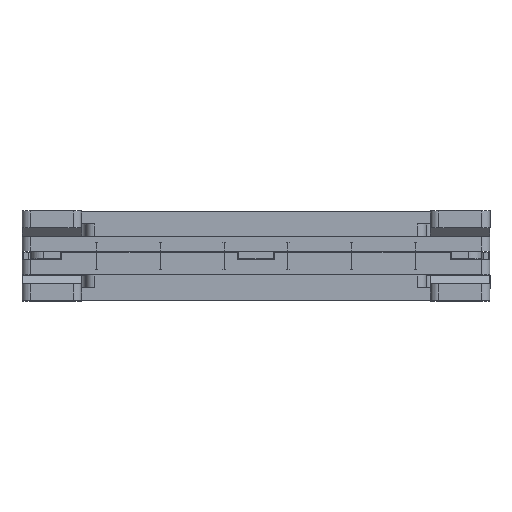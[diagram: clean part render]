
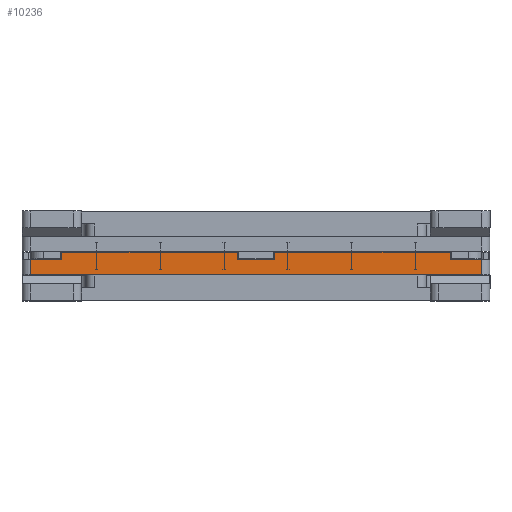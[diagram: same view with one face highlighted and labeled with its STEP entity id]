
A CAD part, top view. The second image highlights one B-rep face of the part: STEP entity #10236.
In plain terms, the highlighted planar face has unit normal (0, 0, 1).
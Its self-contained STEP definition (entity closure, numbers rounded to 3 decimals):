
#212 = ORIENTED_EDGE ( 'NONE', *, *, #36337, .T. ) ;
#353 = ORIENTED_EDGE ( 'NONE', *, *, #36332, .F. ) ;
#692 = VECTOR ( 'NONE', #52304, 1000. ) ;
#1336 = LINE ( 'NONE', #22605, #17972 ) ;
#1466 = CARTESIAN_POINT ( 'NONE',  ( 22., 18., 112.5 ) ) ;
#2512 = AXIS2_PLACEMENT_3D ( 'NONE', #39170, #46843, #16219 ) ;
#2733 = LINE ( 'NONE', #23982, #35339 ) ;
#2742 = CARTESIAN_POINT ( 'NONE',  ( -22., 18., 112.5 ) ) ;
#3171 = CARTESIAN_POINT ( 'NONE',  ( 228.2, 18., 112.5 ) ) ;
#3511 = VECTOR ( 'NONE', #43555, 1000. ) ;
#4065 = EDGE_CURVE ( 'NONE', #41296, #21509, #30439, .T. ) ;
#4513 = CARTESIAN_POINT ( 'NONE',  ( 228.2, 27., 112.5 ) ) ;
#5004 = VECTOR ( 'NONE', #51914, 1000. ) ;
#5793 = VERTEX_POINT ( 'NONE', #29169 ) ;
#6095 = CARTESIAN_POINT ( 'NONE',  ( 265., 18., 112.5 ) ) ;
#6659 = VERTEX_POINT ( 'NONE', #28083 ) ;
#8196 = LINE ( 'NONE', #29411, #54652 ) ;
#8206 = VECTOR ( 'NONE', #54591, 1000. ) ;
#8896 = ORIENTED_EDGE ( 'NONE', *, *, #44897, .T. ) ;
#8951 = CARTESIAN_POINT ( 'NONE',  ( 265., 0., 112.5 ) ) ;
#9792 = EDGE_CURVE ( 'NONE', #10940, #33911, #33827, .T. ) ;
#10236 = ADVANCED_FACE ( 'NONE', ( #29216 ), #26120, .F. ) ;
#10940 = VERTEX_POINT ( 'NONE', #8951 ) ;
#11453 = CARTESIAN_POINT ( 'NONE',  ( -22., 27., 112.5 ) ) ;
#11501 = VERTEX_POINT ( 'NONE', #1466 ) ;
#12213 = EDGE_CURVE ( 'NONE', #38240, #21509, #43016, .T. ) ;
#12546 = DIRECTION ( 'NONE',  ( 0., -1., 0. ) ) ;
#13103 = CARTESIAN_POINT ( 'NONE',  ( -228.2, 18., 112.5 ) ) ;
#13566 = CARTESIAN_POINT ( 'NONE',  ( 22., 27., 112.5 ) ) ;
#16219 = DIRECTION ( 'NONE',  ( -1., 0., 0. ) ) ;
#17033 = EDGE_CURVE ( 'NONE', #6659, #5793, #17344, .T. ) ;
#17344 = LINE ( 'NONE', #34049, #25977 ) ;
#17972 = VECTOR ( 'NONE', #53235, 1000. ) ;
#19483 = CARTESIAN_POINT ( 'NONE',  ( -20., 18., 112.5 ) ) ;
#21509 = VERTEX_POINT ( 'NONE', #11453 ) ;
#22605 = CARTESIAN_POINT ( 'NONE',  ( -275., 27., 112.5 ) ) ;
#23380 = VERTEX_POINT ( 'NONE', #3171 ) ;
#23406 = CARTESIAN_POINT ( 'NONE',  ( -228.2, 27., 112.5 ) ) ;
#23927 = EDGE_LOOP ( 'NONE', ( #212, #51167, #32704, #8896, #25022, #32228, #49902, #27597, #34293, #33205, #353, #33732 ) ) ;
#23982 = CARTESIAN_POINT ( 'NONE',  ( -275., 0., 112.5 ) ) ;
#25022 = ORIENTED_EDGE ( 'NONE', *, *, #50580, .F. ) ;
#25518 = CARTESIAN_POINT ( 'NONE',  ( 228.2, 27., 112.5 ) ) ;
#25648 = CARTESIAN_POINT ( 'NONE',  ( -228.2, 27., 112.5 ) ) ;
#25977 = VECTOR ( 'NONE', #12546, 1000. ) ;
#26120 = PLANE ( 'NONE',  #2512 ) ;
#26247 = LINE ( 'NONE', #48952, #3511 ) ;
#27540 = EDGE_CURVE ( 'NONE', #37904, #11501, #26247, .T. ) ;
#27597 = ORIENTED_EDGE ( 'NONE', *, *, #12213, .T. ) ;
#28083 = CARTESIAN_POINT ( 'NONE',  ( -265., 18., 112.5 ) ) ;
#28157 = VERTEX_POINT ( 'NONE', #13103 ) ;
#28771 = LINE ( 'NONE', #19483, #43529 ) ;
#29169 = CARTESIAN_POINT ( 'NONE',  ( -265., 0., 112.5 ) ) ;
#29216 = FACE_OUTER_BOUND ( 'NONE', #23927, .T. ) ;
#29411 = CARTESIAN_POINT ( 'NONE',  ( 230.2, 18., 112.5 ) ) ;
#30439 = LINE ( 'NONE', #34134, #48617 ) ;
#32228 = ORIENTED_EDGE ( 'NONE', *, *, #27540, .T. ) ;
#32697 = DIRECTION ( 'NONE',  ( 0., -1., 0. ) ) ;
#32704 = ORIENTED_EDGE ( 'NONE', *, *, #45267, .F. ) ;
#33025 = DIRECTION ( 'NONE',  ( 1., 0., 0. ) ) ;
#33205 = ORIENTED_EDGE ( 'NONE', *, *, #46057, .T. ) ;
#33732 = ORIENTED_EDGE ( 'NONE', *, *, #17033, .T. ) ;
#33827 = LINE ( 'NONE', #51168, #692 ) ;
#33911 = VERTEX_POINT ( 'NONE', #6095 ) ;
#34049 = CARTESIAN_POINT ( 'NONE',  ( -265., 27., 112.5 ) ) ;
#34134 = CARTESIAN_POINT ( 'NONE',  ( -275., 27., 112.5 ) ) ;
#34293 = ORIENTED_EDGE ( 'NONE', *, *, #4065, .F. ) ;
#35339 = VECTOR ( 'NONE', #33025, 1000. ) ;
#35400 = LINE ( 'NONE', #53775, #8206 ) ;
#36332 = EDGE_CURVE ( 'NONE', #6659, #28157, #35400, .T. ) ;
#36337 = EDGE_CURVE ( 'NONE', #5793, #10940, #2733, .T. ) ;
#36412 = EDGE_CURVE ( 'NONE', #38240, #11501, #28771, .T. ) ;
#37904 = VERTEX_POINT ( 'NONE', #13566 ) ;
#38240 = VERTEX_POINT ( 'NONE', #2742 ) ;
#38865 = LINE ( 'NONE', #25518, #5004 ) ;
#39170 = CARTESIAN_POINT ( 'NONE',  ( -275., 27., 112.5 ) ) ;
#39215 = VERTEX_POINT ( 'NONE', #4513 ) ;
#41296 = VERTEX_POINT ( 'NONE', #25648 ) ;
#42458 = DIRECTION ( 'NONE',  ( 0., 1., 0. ) ) ;
#43016 = LINE ( 'NONE', #46415, #47611 ) ;
#43529 = VECTOR ( 'NONE', #54060, 1000. ) ;
#43555 = DIRECTION ( 'NONE',  ( 0., -1., 0. ) ) ;
#44897 = EDGE_CURVE ( 'NONE', #23380, #39215, #38865, .T. ) ;
#45267 = EDGE_CURVE ( 'NONE', #23380, #33911, #8196, .T. ) ;
#46057 = EDGE_CURVE ( 'NONE', #41296, #28157, #53739, .T. ) ;
#46415 = CARTESIAN_POINT ( 'NONE',  ( -22., 27., 112.5 ) ) ;
#46605 = VECTOR ( 'NONE', #32697, 1000. ) ;
#46843 = DIRECTION ( 'NONE',  ( 0., 0., -1. ) ) ;
#47611 = VECTOR ( 'NONE', #42458, 1000. ) ;
#48617 = VECTOR ( 'NONE', #51471, 1000. ) ;
#48952 = CARTESIAN_POINT ( 'NONE',  ( 22., 27., 112.5 ) ) ;
#49902 = ORIENTED_EDGE ( 'NONE', *, *, #36412, .F. ) ;
#50580 = EDGE_CURVE ( 'NONE', #37904, #39215, #1336, .T. ) ;
#51167 = ORIENTED_EDGE ( 'NONE', *, *, #9792, .T. ) ;
#51168 = CARTESIAN_POINT ( 'NONE',  ( 265., 27., 112.5 ) ) ;
#51471 = DIRECTION ( 'NONE',  ( 1., 0., 0. ) ) ;
#51576 = DIRECTION ( 'NONE',  ( 1., 0., 0. ) ) ;
#51914 = DIRECTION ( 'NONE',  ( 0., 1., 0. ) ) ;
#52304 = DIRECTION ( 'NONE',  ( 0., 1., 0. ) ) ;
#53235 = DIRECTION ( 'NONE',  ( 1., 0., 0. ) ) ;
#53739 = LINE ( 'NONE', #23406, #46605 ) ;
#53775 = CARTESIAN_POINT ( 'NONE',  ( -230.2, 18., 112.5 ) ) ;
#54060 = DIRECTION ( 'NONE',  ( 1., 0., 0. ) ) ;
#54591 = DIRECTION ( 'NONE',  ( 1., 0., 0. ) ) ;
#54652 = VECTOR ( 'NONE', #51576, 1000. ) ;
